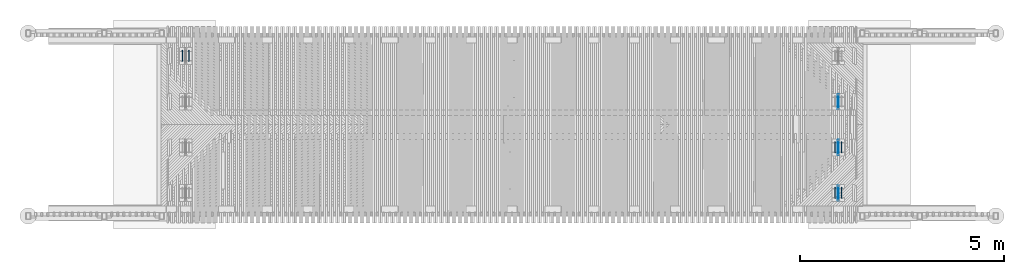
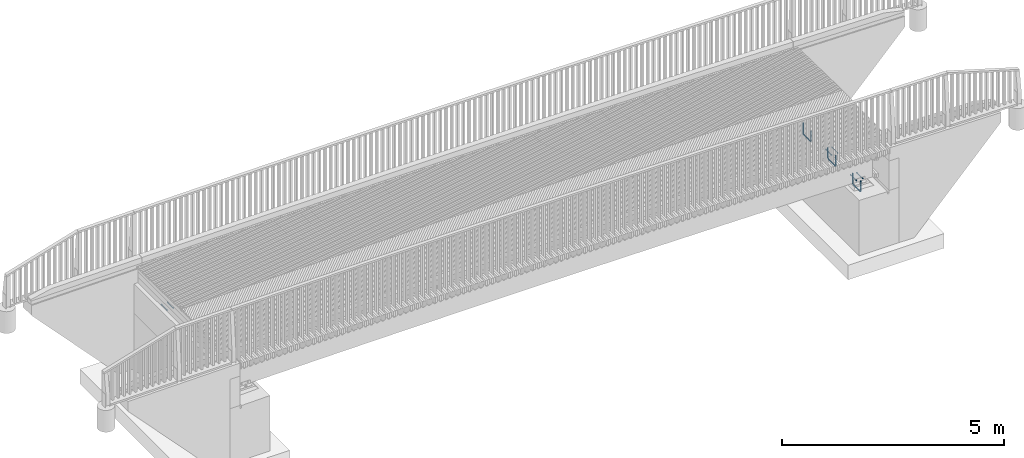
# One storey, part 2 of 47: 6 reinforcing bars, 3 mechanical fasteners.
"""IFC2X3 building model written with IfcOpenShell, lengths in millimetres."""

from ifc_helpers import new_model, si_unit, frame, origin_with_axes, place, context, subcontext, project, spatial, faceted_brep, source, transform, mapped, material, type_object, element, save


model = new_model("IFC2X3")

# Units and contexts
model_context = context("Model", 3, precision=1e-05, world=origin_with_axes())
body_context = subcontext(model_context, "Body", "Model", "MODEL_VIEW")
ifc_project = project(units=[si_unit("LENGTHUNIT", "METRE", prefix="MILLI"), si_unit("AREAUNIT", "SQUARE_METRE"), si_unit("VOLUMEUNIT", "CUBIC_METRE"), si_unit("MASSUNIT", "GRAM", prefix="KILO"), si_unit("TIMEUNIT", "SECOND"), si_unit("PLANEANGLEUNIT", "RADIAN"), si_unit("SOLIDANGLEUNIT", "STERADIAN"), si_unit("THERMODYNAMICTEMPERATUREUNIT", "DEGREE_CELSIUS"), si_unit("LUMINOUSINTENSITYUNIT", "LUMEN")], contexts=[model_context])

# Site, building, storey
site_placement = place(None, origin_with_axes())
site = spatial("IfcSite", under=ifc_project, at=site_placement, Name="Undefined", CompositionType="ELEMENT")
building_placement = place(site_placement, origin_with_axes())
building = spatial("IfcBuilding", under=site, at=building_placement, Name="Undefined", CompositionType="ELEMENT")
storey_placement = place(building_placement, origin_with_axes())
storey = spatial("IfcBuildingStorey", under=building, at=storey_placement, Name="Undefined", CompositionType="ELEMENT", Elevation=0.0)

# Reinforcing bars
ifc_material_1 = material(Name="A500HW")
shared_shape_1 = source(origin_with_axes(), body_context, "Body", "Brep", [
    faceted_brep([(9.95929214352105, -5.74999999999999, -1.31778448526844e-16), (9.95929214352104, 5.75000000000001, -1.31778448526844e-16), (-4.46864767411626e-15, 11.5, 5.31556664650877e-32), (-9.95929214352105, 5.75, 1.31778448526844e-16), (-9.95929214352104, -5.75, 1.31778448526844e-16), (0.0, -11.5, 0.0), (-9.95929214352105, -5.75, -268.5), (-3.5527136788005e-15, -11.5, -268.5), (-9.95929214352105, 5.75, -268.5), (-8.02136135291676e-15, 11.5, -268.5), (9.95929214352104, 5.75000000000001, -268.5), (9.95929214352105, -5.74999999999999, -268.5), (-4.40480021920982, -5.75, -289.229646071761), (4.22019978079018, -11.5, -284.25), (-4.40480021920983, 5.75, -289.229646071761), (4.22019978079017, 11.5, -284.25), (12.8451997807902, 5.75000000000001, -279.27035392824), (12.8451997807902, -5.74999999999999, -279.27035392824), (10.7703539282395, -5.75, -304.40480021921), (15.75, -11.5, -295.77980021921), (10.7703539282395, 5.75, -304.40480021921), (15.75, 11.5, -295.77980021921), (20.7296460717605, 5.75000000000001, -287.15480021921), (20.7296460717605, -5.74999999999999, -287.15480021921), (31.5, -5.75, -309.959292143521), (31.5, -11.5, -300.0), (31.5, 5.75, -309.959292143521), (31.5, 11.5, -300.0), (31.5, 5.75000000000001, -290.040707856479), (31.5, -5.74999999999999, -290.040707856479), (323.5, -5.75, -309.959292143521), (323.5, -11.5, -300.0), (323.5, 5.75, -309.959292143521), (323.5, 11.5, -300.0), (323.5, 5.75000000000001, -290.040707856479), (323.5, -5.74999999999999, -290.040707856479), (344.229646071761, -5.75, -304.40480021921), (339.25, -11.5, -295.77980021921), (344.229646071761, 5.75, -304.40480021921), (339.25, 11.5, -295.77980021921), (334.270353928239, 5.75000000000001, -287.15480021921), (334.270353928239, -5.74999999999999, -287.15480021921), (359.40480021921, -5.75, -289.229646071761), (350.77980021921, -11.5, -284.25), (359.40480021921, 5.75, -289.229646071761), (350.77980021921, 11.5, -284.25), (342.15480021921, 5.75000000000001, -279.27035392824), (342.15480021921, -5.74999999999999, -279.27035392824), (364.959292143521, -5.75, -268.5), (355.0, -11.5, -268.5), (364.959292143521, 5.75, -268.5), (355.0, 11.5, -268.5), (345.040707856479, 5.75000000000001, -268.5), (345.040707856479, -5.74999999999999, -268.5), (364.959292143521, -5.75, 0.0), (355.0, -11.5, 0.0), (364.959292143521, 5.75, 0.0), (355.0, 11.5, 0.0), (345.040707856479, 5.75000000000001, 0.0), (345.040707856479, -5.74999999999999, 0.0)], [[[0, 1, 2, 3, 4, 5]], [[5, 4, 6, 7]], [[4, 3, 8, 6]], [[3, 2, 9, 8]], [[2, 1, 10, 9]], [[1, 0, 11, 10]], [[0, 5, 7, 11]], [[7, 6, 12, 13]], [[6, 8, 14, 12]], [[8, 9, 15, 14]], [[9, 10, 16, 15]], [[10, 11, 17, 16]], [[11, 7, 13, 17]], [[13, 12, 18, 19]], [[12, 14, 20, 18]], [[14, 15, 21, 20]], [[15, 16, 22, 21]], [[16, 17, 23, 22]], [[17, 13, 19, 23]], [[19, 18, 24, 25]], [[18, 20, 26, 24]], [[20, 21, 27, 26]], [[21, 22, 28, 27]], [[22, 23, 29, 28]], [[23, 19, 25, 29]], [[25, 24, 30, 31]], [[24, 26, 32, 30]], [[26, 27, 33, 32]], [[27, 28, 34, 33]], [[28, 29, 35, 34]], [[29, 25, 31, 35]], [[31, 30, 36, 37]], [[30, 32, 38, 36]], [[32, 33, 39, 38]], [[33, 34, 40, 39]], [[34, 35, 41, 40]], [[35, 31, 37, 41]], [[37, 36, 42, 43]], [[36, 38, 44, 42]], [[38, 39, 45, 44]], [[39, 40, 46, 45]], [[40, 41, 47, 46]], [[41, 37, 43, 47]], [[43, 42, 48, 49]], [[42, 44, 50, 48]], [[44, 45, 51, 50]], [[45, 46, 52, 51]], [[46, 47, 53, 52]], [[47, 43, 49, 53]], [[49, 48, 54, 55]], [[48, 50, 56, 54]], [[50, 51, 57, 56]], [[51, 52, 58, 57]], [[52, 53, 59, 58]], [[53, 49, 55, 59]], [[55, 54, 56, 57, 58, 59]]]),
])
for number, where, z_axis, x_axis, name in (
    (1, (16000.0, 63102.5000000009, 1637.32999999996), (0.0, 0.0, 1.0), (0.0, -1.0, 0.0), "REBAR"),
    (2, (16000.0, 61627.5, 1637.32999999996), (0.0, 0.0, 1.0), (0.0, 1.0, 0.0), "REBAR"),
    (3, (16000.0, 60507.5, 1615.32999999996), (0.0, 0.0, 1.0), (0.0, 1.0, 0.0), "REBAR"),
    (4, (16000.0, 60507.5, 1615.32999999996), (0.0, 0.0, 1.0), (0.0, 1.0, 0.0), "REBAR"),
    (5, (16000.0, 61627.5, 1637.32999999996), (0.0, 0.0, 1.0), (0.0, 1.0, 0.0), "REBAR"),
    (6, (16000.0, 63102.5000000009, 1637.32999999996), (0.0, 0.0, 1.0), (0.0, -1.0, 0.0), "REBAR"),
):
    element("IfcReinforcingBar", number, at=place(storey_placement, frame(where, z_axis=z_axis, x_axis=x_axis)), inside=storey, material=ifc_material_1, Name=name, BarRole="NOTDEFINED", CrossSectionArea=0.0, NominalDiameter=23.0, context=body_context, shape_type="MappedRepresentation", body=[
        mapped(shared_shape_1, transform((0.0, 0.0, 420.0))),
    ])

# Mechanical fasteners
ifc_material_2 = material(Name="Undefined")
mechanical_fastener_type = type_object("IfcMechanicalFastenerType", Name="Bolt assembly")
shared_shape_2 = source(origin_with_axes(), body_context, "Body", "Brep", [
    faceted_brep([(17.3205080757, -238.7, 0.0), (8.66025403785, -238.7, 15.0000000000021), (-8.66025403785, -238.7, 15.0000000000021), (-17.3205080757, -238.7, 0.0), (-8.66025403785, -238.7, -15.0000000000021), (8.66025403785, -238.7, -15.0000000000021), (8.66025403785, -225.5, -15.0000000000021), (-8.66025403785, -225.5, -15.0000000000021), (-17.3205080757, -225.5, 0.0), (-8.66025403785, -225.5, 15.0000000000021), (8.66025403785, -225.5, 15.0000000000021), (17.3205080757, -225.5, 0.0), (10.0, -225.5, 0.0), (8.66025403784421, -225.5, 5.0000000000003), (4.9999999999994, -225.5, 8.66025403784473), (-1.03633598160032e-12, -225.5, 10.0), (-5.00000000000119, -225.5, 8.6602540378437), (-8.66025403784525, -225.5, 4.99999999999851), (-10.0, -225.5, -2.07267196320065e-12), (-8.66025403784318, -225.5, -5.00000000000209), (-4.99999999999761, -225.5, -8.66025403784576), (3.09790571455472e-12, -225.5, -10.0), (5.00000000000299, -225.5, -8.66025403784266), (8.66025403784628, -225.5, -4.99999999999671), (8.66025403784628, 44.5, -4.99999999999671), (5.00000000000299, 44.5, -8.66025403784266), (3.09790571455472e-12, 44.5, -10.0), (-4.99999999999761, 44.5, -8.66025403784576), (-8.66025403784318, 44.5, -5.00000000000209), (-10.0, 44.5, -2.07267196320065e-12), (-8.66025403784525, 44.5, 4.99999999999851), (-5.00000000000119, 44.5, 8.6602540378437), (-1.03633598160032e-12, 44.5, 10.0), (4.9999999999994, 44.5, 8.66025403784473), (8.66025403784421, 44.5, 5.0000000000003), (10.0, 44.5, 0.0), (18.5, -225.5, 0.0), (16.0214699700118, -225.5, 9.25000000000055), (9.2499999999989, -225.5, 16.0214699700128), (-1.9172215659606e-12, -225.5, 18.5), (-9.25000000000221, -225.5, 16.0214699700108), (-16.0214699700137, -225.5, 9.24999999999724), (-18.5, -225.5, -3.83444313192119e-12), (-16.0214699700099, -225.5, -9.25000000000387), (-9.24999999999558, -225.5, -16.0214699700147), (5.73112557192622e-12, -225.5, -18.5), (9.25000000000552, -225.5, -16.0214699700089), (16.0214699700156, -225.5, -9.24999999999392), (16.0214699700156, -222.5, -9.24999999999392), (9.25000000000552, -222.5, -16.0214699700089), (5.73112557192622e-12, -222.5, -18.5), (-9.24999999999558, -222.5, -16.0214699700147), (-16.0214699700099, -222.5, -9.25000000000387), (-18.5, -222.5, -3.83444313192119e-12), (-16.0214699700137, -222.5, 9.24999999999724), (-9.25000000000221, -222.5, 16.0214699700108), (-1.9172215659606e-12, -222.5, 18.5), (9.2499999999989, -222.5, 16.0214699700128), (16.0214699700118, -222.5, 9.25000000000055), (18.5, -222.5, 0.0), (18.5, 12.5, 0.0), (16.0214699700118, 12.5, 9.25000000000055), (9.2499999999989, 12.5, 16.0214699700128), (-1.9172215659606e-12, 12.5, 18.5), (-9.25000000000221, 12.5, 16.0214699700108), (-16.0214699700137, 12.5, 9.24999999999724), (-18.5, 12.5, -3.83444313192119e-12), (-16.0214699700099, 12.5, -9.25000000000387), (-9.24999999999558, 12.5, -16.0214699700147), (5.73112557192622e-12, 12.5, -18.5), (9.25000000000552, 12.5, -16.0214699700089), (16.0214699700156, 12.5, -9.24999999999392), (16.0214699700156, 15.5, -9.24999999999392), (9.25000000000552, 15.5, -16.0214699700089), (5.73112557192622e-12, 15.5, -18.5), (-9.24999999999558, 15.5, -16.0214699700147), (-16.0214699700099, 15.5, -9.25000000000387), (-18.5, 15.5, -3.83444313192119e-12), (-16.0214699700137, 15.5, 9.24999999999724), (-9.25000000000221, 15.5, 16.0214699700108), (-1.9172215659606e-12, 15.5, 18.5), (9.2499999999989, 15.5, 16.0214699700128), (16.0214699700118, 15.5, 9.25000000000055), (18.5, 15.5, 0.0), (17.3205080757, 15.5, 0.0), (8.66025403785, 15.5, 15.0000000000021), (-8.66025403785, 15.5, 15.0000000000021), (-17.3205080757, 15.5, 0.0), (-8.66025403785, 15.5, -15.0000000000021), (8.66025403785, 15.5, -15.0000000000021), (8.66025403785, 31.5, -15.0000000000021), (-8.66025403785, 31.5, -15.0000000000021), (-17.3205080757, 31.5, 0.0), (-8.66025403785, 31.5, 15.0000000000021), (8.66025403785, 31.5, 15.0000000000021), (17.3205080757, 31.5, 0.0)], [[[0, 1, 2, 3, 4, 5]], [[6, 7, 8, 9, 10, 11]], [[0, 11, 10, 1]], [[1, 10, 9, 2]], [[2, 9, 8, 3]], [[3, 8, 7, 4]], [[4, 7, 6, 5]], [[5, 6, 11, 0]], [[12, 13, 14, 15, 16, 17, 18, 19, 20, 21, 22, 23]], [[24, 25, 26, 27, 28, 29, 30, 31, 32, 33, 34, 35]], [[12, 35, 34, 13]], [[13, 34, 33, 14]], [[14, 33, 32, 15]], [[15, 32, 31, 16]], [[16, 31, 30, 17]], [[17, 30, 29, 18]], [[18, 29, 28, 19]], [[19, 28, 27, 20]], [[20, 27, 26, 21]], [[21, 26, 25, 22]], [[22, 25, 24, 23]], [[23, 24, 35, 12]], [[36, 37, 38, 39, 40, 41, 42, 43, 44, 45, 46, 47]], [[48, 49, 50, 51, 52, 53, 54, 55, 56, 57, 58, 59]], [[36, 59, 58, 37]], [[37, 58, 57, 38]], [[38, 57, 56, 39]], [[39, 56, 55, 40]], [[40, 55, 54, 41]], [[41, 54, 53, 42]], [[42, 53, 52, 43]], [[43, 52, 51, 44]], [[44, 51, 50, 45]], [[45, 50, 49, 46]], [[46, 49, 48, 47]], [[47, 48, 59, 36]], [[60, 61, 62, 63, 64, 65, 66, 67, 68, 69, 70, 71]], [[72, 73, 74, 75, 76, 77, 78, 79, 80, 81, 82, 83]], [[60, 83, 82, 61]], [[61, 82, 81, 62]], [[62, 81, 80, 63]], [[63, 80, 79, 64]], [[64, 79, 78, 65]], [[65, 78, 77, 66]], [[66, 77, 76, 67]], [[67, 76, 75, 68]], [[68, 75, 74, 69]], [[69, 74, 73, 70]], [[70, 73, 72, 71]], [[71, 72, 83, 60]], [[84, 85, 86, 87, 88, 89]], [[90, 91, 92, 93, 94, 95]], [[84, 95, 94, 85]], [[85, 94, 93, 86]], [[86, 93, 92, 87]], [[87, 92, 91, 88]], [[88, 91, 90, 89]], [[89, 90, 95, 84]]]),
    faceted_brep([(11.0, 2.4, 0.0), (9.52627944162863, 2.4, 5.50000000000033), (5.49999999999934, 2.4, 9.5262794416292), (-1.13996957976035e-12, 2.4, 11.0), (-5.50000000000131, 2.4, 9.52627944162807), (-9.52627944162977, 2.4, 5.49999999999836), (-11.0, 2.4, -2.27993915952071e-12), (-9.5262794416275, 2.4, -5.5000000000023), (-5.49999999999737, 2.4, -9.52627944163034), (3.40769628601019e-12, 2.4, -11.0), (5.50000000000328, 2.4, -9.52627944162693), (9.52627944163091, 2.4, -5.49999999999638), (9.52627944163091, 12.5, -5.49999999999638), (5.50000000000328, 12.5, -9.52627944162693), (3.40769628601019e-12, 12.5, -11.0), (-5.49999999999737, 12.5, -9.52627944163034), (-9.5262794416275, 12.5, -5.5000000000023), (-11.0, 12.5, -2.27993915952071e-12), (-9.52627944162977, 12.5, 5.49999999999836), (-5.50000000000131, 12.5, 9.52627944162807), (-1.13996957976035e-12, 12.5, 11.0), (5.49999999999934, 12.5, 9.5262794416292), (9.52627944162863, 12.5, 5.50000000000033), (11.0, 12.5, 0.0), (11.0, -212.500000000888, 0.0), (9.52627944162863, -212.500000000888, 5.50000000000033), (5.49999999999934, -212.500000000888, 9.5262794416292), (-1.13996957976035e-12, -212.500000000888, 11.0), (-5.50000000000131, -212.500000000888, 9.52627944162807), (-9.52627944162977, -212.500000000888, 5.49999999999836), (-11.0, -212.500000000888, -2.27993915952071e-12), (-9.5262794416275, -212.500000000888, -5.5000000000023), (-5.49999999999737, -212.500000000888, -9.52627944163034), (3.40769628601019e-12, -212.500000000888, -11.0), (5.50000000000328, -212.500000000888, -9.52627944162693), (9.52627944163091, -212.500000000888, -5.49999999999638), (9.52627944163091, 2.49999999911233, -5.49999999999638), (5.50000000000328, 2.49999999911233, -9.52627944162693), (3.40769628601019e-12, 2.49999999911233, -11.0), (-5.49999999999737, 2.49999999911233, -9.52627944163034), (-9.5262794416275, 2.49999999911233, -5.5000000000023), (-11.0, 2.49999999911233, -2.27993915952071e-12), (-9.52627944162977, 2.49999999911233, 5.49999999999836), (-5.50000000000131, 2.49999999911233, 9.52627944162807), (-1.13996957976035e-12, 2.49999999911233, 11.0), (5.49999999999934, 2.49999999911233, 9.5262794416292), (9.52627944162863, 2.49999999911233, 5.50000000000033), (11.0, 2.49999999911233, 0.0), (11.0, -222.4, 0.0), (9.52627944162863, -222.4, 5.50000000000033), (5.49999999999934, -222.4, 9.5262794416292), (-1.13996957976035e-12, -222.4, 11.0), (-5.50000000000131, -222.4, 9.52627944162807), (-9.52627944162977, -222.4, 5.49999999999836), (-11.0, -222.4, -2.27993915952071e-12), (-9.5262794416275, -222.4, -5.5000000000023), (-5.49999999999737, -222.4, -9.52627944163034), (3.40769628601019e-12, -222.4, -11.0), (5.50000000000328, -222.4, -9.52627944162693), (9.52627944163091, -222.4, -5.49999999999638), (9.52627944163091, -212.4, -5.49999999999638), (5.50000000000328, -212.4, -9.52627944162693), (3.40769628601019e-12, -212.4, -11.0), (-5.49999999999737, -212.4, -9.52627944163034), (-9.5262794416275, -212.4, -5.5000000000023), (-11.0, -212.4, -2.27993915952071e-12), (-9.52627944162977, -212.4, 5.49999999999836), (-5.50000000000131, -212.4, 9.52627944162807), (-1.13996957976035e-12, -212.4, 11.0), (5.49999999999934, -212.4, 9.5262794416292), (9.52627944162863, -212.4, 5.50000000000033), (11.0, -212.4, 0.0)], [[[0, 1, 2, 3, 4, 5, 6, 7, 8, 9, 10, 11]], [[12, 13, 14, 15, 16, 17, 18, 19, 20, 21, 22, 23]], [[0, 23, 22, 1]], [[1, 22, 21, 2]], [[2, 21, 20, 3]], [[3, 20, 19, 4]], [[4, 19, 18, 5]], [[5, 18, 17, 6]], [[6, 17, 16, 7]], [[7, 16, 15, 8]], [[8, 15, 14, 9]], [[9, 14, 13, 10]], [[10, 13, 12, 11]], [[11, 12, 23, 0]], [[24, 25, 26, 27, 28, 29, 30, 31, 32, 33, 34, 35]], [[36, 37, 38, 39, 40, 41, 42, 43, 44, 45, 46, 47]], [[24, 47, 46, 25]], [[25, 46, 45, 26]], [[26, 45, 44, 27]], [[27, 44, 43, 28]], [[28, 43, 42, 29]], [[29, 42, 41, 30]], [[30, 41, 40, 31]], [[31, 40, 39, 32]], [[32, 39, 38, 33]], [[33, 38, 37, 34]], [[34, 37, 36, 35]], [[35, 36, 47, 24]], [[48, 49, 50, 51, 52, 53, 54, 55, 56, 57, 58, 59]], [[60, 61, 62, 63, 64, 65, 66, 67, 68, 69, 70, 71]], [[48, 71, 70, 49]], [[49, 70, 69, 50]], [[50, 69, 68, 51]], [[51, 68, 67, 52]], [[52, 67, 66, 53]], [[53, 66, 65, 54]], [[54, 65, 64, 55]], [[55, 64, 63, 56]], [[56, 63, 62, 57]], [[57, 62, 61, 58]], [[58, 61, 60, 59]], [[59, 60, 71, 48]]]),
])
mechanical_fastener_placement = place(storey_placement, frame((-80.0, 64150.0000000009, 2045.33), z_axis=(0.0, 0.0, 1.0), x_axis=(1.0, 0.0, 0.0)))
element("IfcMechanicalFastener", 7, at=mechanical_fastener_placement, inside=storey, type_object=mechanical_fastener_type, material=ifc_material_2, Name="Bolt assembly", NominalDiameter=20.0, NominalLength=270.0, context=body_context, shape_type="MappedRepresentation", body=[
    mapped(shared_shape_2, transform((0.0, 0.0, 0.0))),
    mapped(shared_shape_2, transform((160.0, 0.0, 0.0))),
])
shared_shape_3 = source(origin_with_axes(), body_context, "Body", "Brep", [
    faceted_brep([(17.3205080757, -28.7, 0.0), (8.66025403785, -28.7, 15.0000000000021), (-8.66025403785, -28.7, 15.0000000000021), (-17.3205080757, -28.7, 0.0), (-8.66025403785, -28.7, -15.0000000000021), (8.66025403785, -28.7, -15.0000000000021), (8.66025403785, -15.5, -15.0000000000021), (-8.66025403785, -15.5, -15.0000000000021), (-17.3205080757, -15.5, 0.0), (-8.66025403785, -15.5, 15.0000000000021), (8.66025403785, -15.5, 15.0000000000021), (17.3205080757, -15.5, 0.0), (10.0, -15.5, 0.0), (8.66025403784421, -15.5, 5.0000000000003), (4.9999999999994, -15.5, 8.66025403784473), (-1.03633598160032e-12, -15.5, 10.0), (-5.00000000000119, -15.5, 8.6602540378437), (-8.66025403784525, -15.5, 4.99999999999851), (-10.0, -15.5, -2.07267196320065e-12), (-8.66025403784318, -15.5, -5.00000000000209), (-4.99999999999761, -15.5, -8.66025403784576), (3.09790571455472e-12, -15.5, -10.0), (5.00000000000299, -15.5, -8.66025403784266), (8.66025403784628, -15.5, -4.99999999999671), (8.66025403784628, 254.5, -4.99999999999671), (5.00000000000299, 254.5, -8.66025403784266), (3.09790571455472e-12, 254.5, -10.0), (-4.99999999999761, 254.5, -8.66025403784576), (-8.66025403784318, 254.5, -5.00000000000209), (-10.0, 254.5, -2.07267196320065e-12), (-8.66025403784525, 254.5, 4.99999999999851), (-5.00000000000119, 254.5, 8.6602540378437), (-1.03633598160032e-12, 254.5, 10.0), (4.9999999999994, 254.5, 8.66025403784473), (8.66025403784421, 254.5, 5.0000000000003), (10.0, 254.5, 0.0), (18.5, -15.5, 0.0), (16.0214699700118, -15.5, 9.25000000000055), (9.2499999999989, -15.5, 16.0214699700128), (-1.9172215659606e-12, -15.5, 18.5), (-9.25000000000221, -15.5, 16.0214699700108), (-16.0214699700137, -15.5, 9.24999999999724), (-18.5, -15.5, -3.83444313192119e-12), (-16.0214699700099, -15.5, -9.25000000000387), (-9.24999999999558, -15.5, -16.0214699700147), (5.73112557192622e-12, -15.5, -18.5), (9.25000000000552, -15.5, -16.0214699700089), (16.0214699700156, -15.5, -9.24999999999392), (16.0214699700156, -12.5, -9.24999999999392), (9.25000000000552, -12.5, -16.0214699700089), (5.73112557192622e-12, -12.5, -18.5), (-9.24999999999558, -12.5, -16.0214699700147), (-16.0214699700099, -12.5, -9.25000000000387), (-18.5, -12.5, -3.83444313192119e-12), (-16.0214699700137, -12.5, 9.24999999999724), (-9.25000000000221, -12.5, 16.0214699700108), (-1.9172215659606e-12, -12.5, 18.5), (9.2499999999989, -12.5, 16.0214699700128), (16.0214699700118, -12.5, 9.25000000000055), (18.5, -12.5, 0.0), (18.5, 222.5, 0.0), (16.0214699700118, 222.5, 9.25000000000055), (9.2499999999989, 222.5, 16.0214699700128), (-1.9172215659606e-12, 222.5, 18.5), (-9.25000000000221, 222.5, 16.0214699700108), (-16.0214699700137, 222.5, 9.24999999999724), (-18.5, 222.5, -3.83444313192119e-12), (-16.0214699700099, 222.5, -9.25000000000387), (-9.24999999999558, 222.5, -16.0214699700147), (5.73112557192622e-12, 222.5, -18.5), (9.25000000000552, 222.5, -16.0214699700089), (16.0214699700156, 222.5, -9.24999999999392), (16.0214699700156, 225.5, -9.24999999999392), (9.25000000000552, 225.5, -16.0214699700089), (5.73112557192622e-12, 225.5, -18.5), (-9.24999999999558, 225.5, -16.0214699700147), (-16.0214699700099, 225.5, -9.25000000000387), (-18.5, 225.5, -3.83444313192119e-12), (-16.0214699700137, 225.5, 9.24999999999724), (-9.25000000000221, 225.5, 16.0214699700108), (-1.9172215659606e-12, 225.5, 18.5), (9.2499999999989, 225.5, 16.0214699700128), (16.0214699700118, 225.5, 9.25000000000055), (18.5, 225.5, 0.0), (17.3205080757, 225.5, 0.0), (8.66025403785, 225.5, 15.0000000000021), (-8.66025403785, 225.5, 15.0000000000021), (-17.3205080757, 225.5, 0.0), (-8.66025403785, 225.5, -15.0000000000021), (8.66025403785, 225.5, -15.0000000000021), (8.66025403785, 241.5, -15.0000000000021), (-8.66025403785, 241.5, -15.0000000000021), (-17.3205080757, 241.5, 0.0), (-8.66025403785, 241.5, 15.0000000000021), (8.66025403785, 241.5, 15.0000000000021), (17.3205080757, 241.5, 0.0)], [[[0, 1, 2, 3, 4, 5]], [[6, 7, 8, 9, 10, 11]], [[0, 11, 10, 1]], [[1, 10, 9, 2]], [[2, 9, 8, 3]], [[3, 8, 7, 4]], [[4, 7, 6, 5]], [[5, 6, 11, 0]], [[12, 13, 14, 15, 16, 17, 18, 19, 20, 21, 22, 23]], [[24, 25, 26, 27, 28, 29, 30, 31, 32, 33, 34, 35]], [[12, 35, 34, 13]], [[13, 34, 33, 14]], [[14, 33, 32, 15]], [[15, 32, 31, 16]], [[16, 31, 30, 17]], [[17, 30, 29, 18]], [[18, 29, 28, 19]], [[19, 28, 27, 20]], [[20, 27, 26, 21]], [[21, 26, 25, 22]], [[22, 25, 24, 23]], [[23, 24, 35, 12]], [[36, 37, 38, 39, 40, 41, 42, 43, 44, 45, 46, 47]], [[48, 49, 50, 51, 52, 53, 54, 55, 56, 57, 58, 59]], [[36, 59, 58, 37]], [[37, 58, 57, 38]], [[38, 57, 56, 39]], [[39, 56, 55, 40]], [[40, 55, 54, 41]], [[41, 54, 53, 42]], [[42, 53, 52, 43]], [[43, 52, 51, 44]], [[44, 51, 50, 45]], [[45, 50, 49, 46]], [[46, 49, 48, 47]], [[47, 48, 59, 36]], [[60, 61, 62, 63, 64, 65, 66, 67, 68, 69, 70, 71]], [[72, 73, 74, 75, 76, 77, 78, 79, 80, 81, 82, 83]], [[60, 83, 82, 61]], [[61, 82, 81, 62]], [[62, 81, 80, 63]], [[63, 80, 79, 64]], [[64, 79, 78, 65]], [[65, 78, 77, 66]], [[66, 77, 76, 67]], [[67, 76, 75, 68]], [[68, 75, 74, 69]], [[69, 74, 73, 70]], [[70, 73, 72, 71]], [[71, 72, 83, 60]], [[84, 85, 86, 87, 88, 89]], [[90, 91, 92, 93, 94, 95]], [[84, 95, 94, 85]], [[85, 94, 93, 86]], [[86, 93, 92, 87]], [[87, 92, 91, 88]], [[88, 91, 90, 89]], [[89, 90, 95, 84]]]),
    faceted_brep([(11.0, -12.4, 0.0), (9.52627944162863, -12.4, 5.50000000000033), (5.49999999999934, -12.4, 9.5262794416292), (-1.13996957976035e-12, -12.4, 11.0), (-5.50000000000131, -12.4, 9.52627944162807), (-9.52627944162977, -12.4, 5.49999999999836), (-11.0, -12.4, -2.27993915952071e-12), (-9.5262794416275, -12.4, -5.5000000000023), (-5.49999999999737, -12.4, -9.52627944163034), (3.40769628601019e-12, -12.4, -11.0), (5.50000000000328, -12.4, -9.52627944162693), (9.52627944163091, -12.4, -5.49999999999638), (9.52627944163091, -2.4, -5.49999999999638), (5.50000000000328, -2.4, -9.52627944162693), (3.40769628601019e-12, -2.4, -11.0), (-5.49999999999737, -2.4, -9.52627944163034), (-9.5262794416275, -2.4, -5.5000000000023), (-11.0, -2.4, -2.27993915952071e-12), (-9.52627944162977, -2.4, 5.49999999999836), (-5.50000000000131, -2.4, 9.52627944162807), (-1.13996957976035e-12, -2.4, 11.0), (5.49999999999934, -2.4, 9.5262794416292), (9.52627944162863, -2.4, 5.50000000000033), (11.0, -2.4, 0.0), (11.0, 212.4, 0.0), (9.52627944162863, 212.4, 5.50000000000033), (5.49999999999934, 212.4, 9.5262794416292), (-1.13996957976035e-12, 212.4, 11.0), (-5.50000000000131, 212.4, 9.52627944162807), (-9.52627944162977, 212.4, 5.49999999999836), (-11.0, 212.4, -2.27993915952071e-12), (-9.5262794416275, 212.4, -5.5000000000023), (-5.49999999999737, 212.4, -9.52627944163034), (3.40769628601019e-12, 212.4, -11.0), (5.50000000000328, 212.4, -9.52627944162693), (9.52627944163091, 212.4, -5.49999999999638), (9.52627944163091, 222.5, -5.49999999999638), (5.50000000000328, 222.5, -9.52627944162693), (3.40769628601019e-12, 222.5, -11.0), (-5.49999999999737, 222.5, -9.52627944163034), (-9.5262794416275, 222.5, -5.5000000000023), (-11.0, 222.5, -2.27993915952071e-12), (-9.52627944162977, 222.5, 5.49999999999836), (-5.50000000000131, 222.5, 9.52627944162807), (-1.13996957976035e-12, 222.5, 11.0), (5.49999999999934, 222.5, 9.5262794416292), (9.52627944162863, 222.5, 5.50000000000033), (11.0, 222.5, 0.0)], [[[0, 1, 2, 3, 4, 5, 6, 7, 8, 9, 10, 11]], [[12, 13, 14, 15, 16, 17, 18, 19, 20, 21, 22, 23]], [[0, 23, 22, 1]], [[1, 22, 21, 2]], [[2, 21, 20, 3]], [[3, 20, 19, 4]], [[4, 19, 18, 5]], [[5, 18, 17, 6]], [[6, 17, 16, 7]], [[7, 16, 15, 8]], [[8, 15, 14, 9]], [[9, 14, 13, 10]], [[10, 13, 12, 11]], [[11, 12, 23, 0]], [[24, 25, 26, 27, 28, 29, 30, 31, 32, 33, 34, 35]], [[36, 37, 38, 39, 40, 41, 42, 43, 44, 45, 46, 47]], [[24, 47, 46, 25]], [[25, 46, 45, 26]], [[26, 45, 44, 27]], [[27, 44, 43, 28]], [[28, 43, 42, 29]], [[29, 42, 41, 30]], [[30, 41, 40, 31]], [[31, 40, 39, 32]], [[32, 39, 38, 33]], [[33, 38, 37, 34]], [[34, 37, 36, 35]], [[35, 36, 47, 24]]]),
])
for number, where, z_axis, x_axis, name in (
    (8, (16080.0, 61700.0, 2067.33), (0.0, 0.0, -1.0), (-1.0, 0.0, 0.0), "Bolt assembly"),
    (9, (16080.0, 60580.0, 2045.33), (0.0, 0.0, -1.0), (-1.0, 0.0, 0.0), "Bolt assembly"),
):
    element("IfcMechanicalFastener", number, at=place(storey_placement, frame(where, z_axis=z_axis, x_axis=x_axis)), inside=storey, type_object=mechanical_fastener_type, material=ifc_material_2, Name=name, NominalDiameter=20.0, NominalLength=270.0, context=body_context, shape_type="MappedRepresentation", body=[
        mapped(shared_shape_3, transform((0.0, 0.0, 0.0))),
        mapped(shared_shape_3, transform((160.0, 0.0, 0.0))),
    ])

save(model, "model.ifc")
